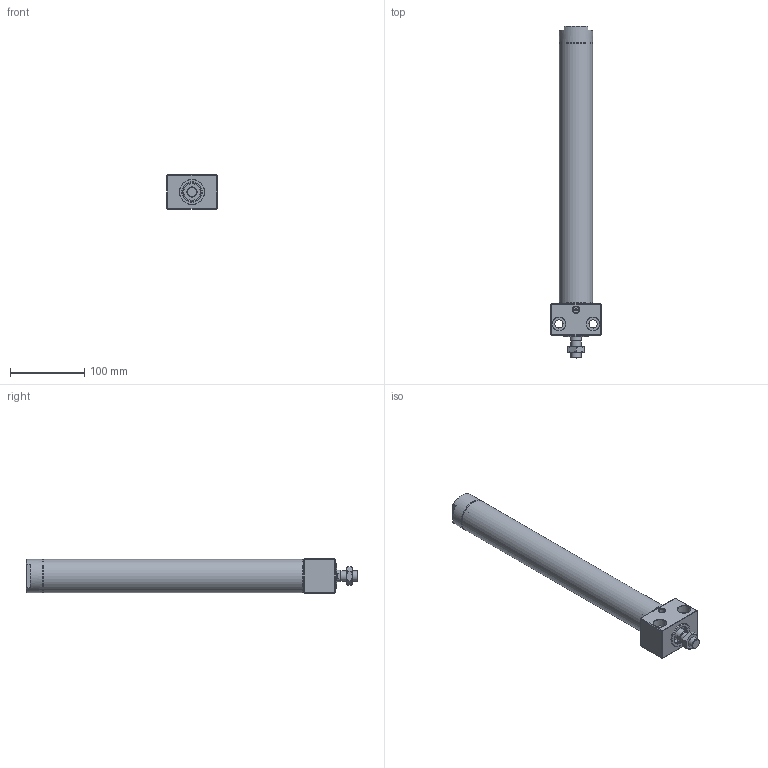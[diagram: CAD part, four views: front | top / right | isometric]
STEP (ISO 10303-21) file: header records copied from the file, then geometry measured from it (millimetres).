
FILE_DESCRIPTION((''),'2;1');
FILE_NAME('I:\3D電子目錄\氣缸\DBS\DBS\DBS40x300.stp','2007-10-08T08:49:26',('Administrator'),(''),'Autodesk Inventor 2008','Autodesk Inventor 2008','');
FILE_SCHEMA(('AUTOMOTIVE_DESIGN { 1 0 10303 214 1 1 1 1 }'));
Length unit declared in the file: millimetre
Products named in the file (1): DBS40x300
Bounding box: 68 x 448.6 x 46 mm (x, y, z)
Volume: 351704.9 mm3; surface area: 149911.2 mm2
Topology: 6 solids, 6 shells, 166 faces, 323 edges, 195 vertices
Faces by surface type: plane 74, cone 41, cylinder 35, bspline 13, torus 3
Full cylindrical faces by diameter (mm): 3 x1, 10.5 x1, 12 x1, 13 x1, 14 x2, 16 x1, 16.5 x1, 18 x1, 21 x2, 24 x3, 26 x2, 27.5 x1, 28 x2, 34 x1, 38 x2, 38.5 x2, 40 x1, 42.2 x6, 45 x4
Entity records: 3958 total; most frequent: CARTESIAN_POINT 865, DIRECTION 652, ORIENTED_EDGE 488, AXIS2_PLACEMENT_3D 287, EDGE_LOOP 280, EDGE_CURVE 244, VERTEX_POINT 188, FACE_OUTER_BOUND 166
